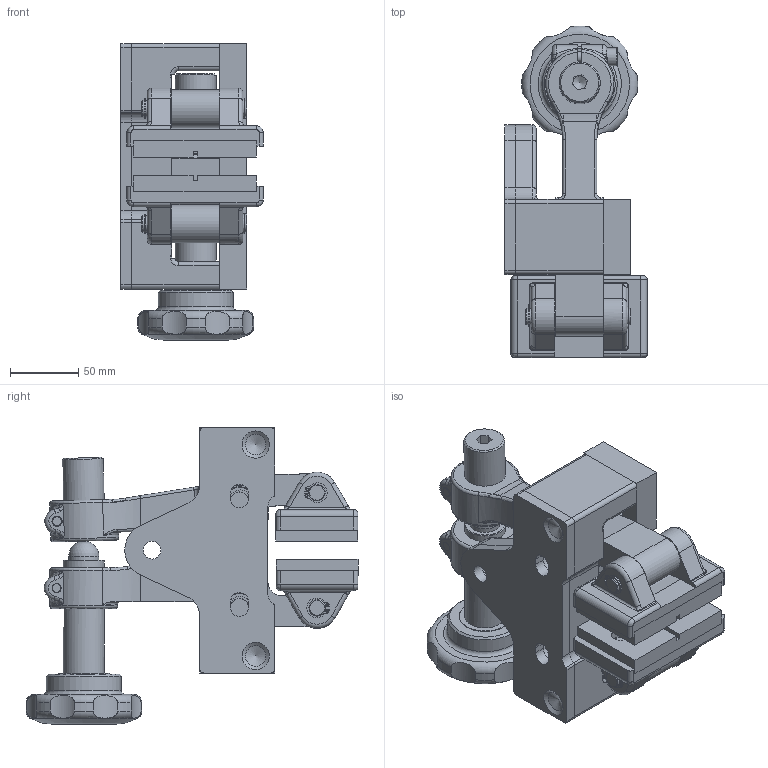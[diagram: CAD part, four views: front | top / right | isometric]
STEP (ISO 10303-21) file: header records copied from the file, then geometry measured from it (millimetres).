
FILE_DESCRIPTION(/* description */ ('','CAx-IF Rec.Pracs.---Representation and Presentation of Product Manufacturing Information (PMI)---4.0---2014-10-13'),/* implementation_level */ '2;1');
FILE_NAME(/* name */ 'X:\INVENTOR\DISEGNI\19_Pinze\STEP x Sito\19_06_030_03 PMH030_12,7.stp',/* time_stamp */ '2018-01-31T16:15:48+01:00',/* author */ ('stefano'),/* organization */ (''),/* preprocessor_version */ 'ST-DEVELOPER v17',/* originating_system */ 'Autodesk Inventor 2018',/* authorisation */ '');
FILE_SCHEMA (('AP242_MANAGED_MODEL_BASED_3D_ENGINEERING_MIM_LF { 1 0 10303 442 1 1 4 }'));
Length unit declared in the file: millimetre
Products named in the file (1): 19_06_030_03 PMH030_12,7 - T180_Substitute_1
Bounding box: 104.5 x 243.44 x 217.75 mm (x, y, z)
Volume: 1570555.9 mm3; surface area: 230688.5 mm2
Topology: 2 solids, 2 shells, 867 faces, 2355 edges, 1520 vertices
Faces by surface type: plane 408, cylinder 275, bspline 71, cone 56, torus 56, sphere 1
Full cylindrical faces by diameter (mm): 1.7 x18, 6 x4, 6.5 x4, 6.647 x1, 8 x2, 8.5 x2, 9.5 x2, 10 x1, 11.5 x4, 12 x14, 13 x8, 13.4 x6, 13.5 x2, 14 x12, 16 x4, 16.5 x4, 21 x3, 22 x1, 22.3 x1, 28.4 x1, 30 x2, 31 x1, 38 x2, 55 x1
Entity records: 31131 total; most frequent: CARTESIAN_POINT 8228, DIRECTION 4702, ORIENTED_EDGE 4654, EDGE_CURVE 2327, AXIS2_PLACEMENT_3D 1774, VERTEX_POINT 1520, LINE 1154, VECTOR 1154
